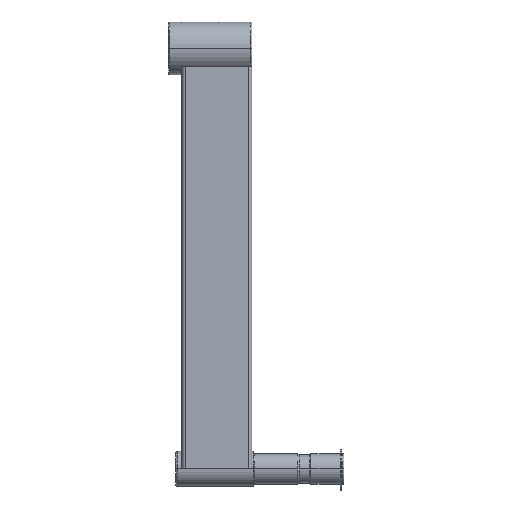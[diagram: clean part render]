
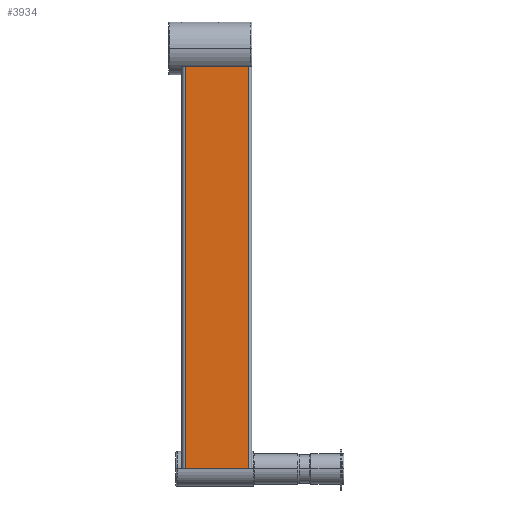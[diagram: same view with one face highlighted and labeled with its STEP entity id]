
A CAD part, left-side view. The second image highlights one B-rep face of the part: STEP entity #3934.
In plain terms, the highlighted planar face has unit normal (-1, 0, 0).
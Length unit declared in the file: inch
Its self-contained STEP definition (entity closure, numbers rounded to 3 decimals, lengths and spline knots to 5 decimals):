
#185 = VECTOR ( 'NONE', #2474, 39.37008 ) ;
#584 = VECTOR ( 'NONE', #3253, 39.37008 ) ;
#673 = ORIENTED_EDGE ( 'NONE', *, *, #1273, .F. ) ;
#834 = DIRECTION ( 'NONE',  ( 0., 1., 0. ) ) ;
#1206 = DIRECTION ( 'NONE',  ( 0., -1., 0. ) ) ;
#1232 = VERTEX_POINT ( 'NONE', #6380 ) ;
#1273 = EDGE_CURVE ( 'NONE', #1584, #2264, #2665, .T. ) ;
#1456 = CARTESIAN_POINT ( 'NONE',  ( 0., -1.9, -5.741 ) ) ;
#1537 = CARTESIAN_POINT ( 'NONE',  ( 0., -0.1, 5.741 ) ) ;
#1584 = VERTEX_POINT ( 'NONE', #2066 ) ;
#1644 = EDGE_CURVE ( 'NONE', #1232, #2264, #1676, .T. ) ;
#1676 = LINE ( 'NONE', #4350, #2908 ) ;
#1809 = CARTESIAN_POINT ( 'NONE',  ( 0., -0.1, 5.741 ) ) ;
#2066 = CARTESIAN_POINT ( 'NONE',  ( 0., -1.9, 5.741 ) ) ;
#2264 = VERTEX_POINT ( 'NONE', #1456 ) ;
#2401 = CARTESIAN_POINT ( 'NONE',  ( 0., -0.1, 5.741 ) ) ;
#2404 = VECTOR ( 'NONE', #1206, 39.37008 ) ;
#2474 = DIRECTION ( 'NONE',  ( 0., 0., -1. ) ) ;
#2665 = LINE ( 'NONE', #3832, #584 ) ;
#2894 = LINE ( 'NONE', #1809, #185 ) ;
#2908 = VECTOR ( 'NONE', #4247, 39.37008 ) ;
#3253 = DIRECTION ( 'NONE',  ( 0., 0., -1. ) ) ;
#3323 = ORIENTED_EDGE ( 'NONE', *, *, #1644, .T. ) ;
#3356 = CARTESIAN_POINT ( 'NONE',  ( 0., -0.1, 5.741 ) ) ;
#3581 = EDGE_LOOP ( 'NONE', ( #3323, #673, #6766, #4239 ) ) ;
#3832 = CARTESIAN_POINT ( 'NONE',  ( 0., -1.9, 5.741 ) ) ;
#3934 = ADVANCED_FACE ( 'NONE', ( #5540 ), #5024, .F. ) ;
#4159 = AXIS2_PLACEMENT_3D ( 'NONE', #2401, #6120, #834 ) ;
#4239 = ORIENTED_EDGE ( 'NONE', *, *, #6153, .T. ) ;
#4247 = DIRECTION ( 'NONE',  ( 0., -1., 0. ) ) ;
#4350 = CARTESIAN_POINT ( 'NONE',  ( 0., -0.1, -5.741 ) ) ;
#4356 = LINE ( 'NONE', #3356, #2404 ) ;
#5024 = PLANE ( 'NONE',  #4159 ) ;
#5405 = EDGE_CURVE ( 'NONE', #6527, #1584, #4356, .T. ) ;
#5540 = FACE_OUTER_BOUND ( 'NONE', #3581, .T. ) ;
#6120 = DIRECTION ( 'NONE',  ( 1., 0., 0. ) ) ;
#6153 = EDGE_CURVE ( 'NONE', #6527, #1232, #2894, .T. ) ;
#6380 = CARTESIAN_POINT ( 'NONE',  ( 0., -0.1, -5.741 ) ) ;
#6527 = VERTEX_POINT ( 'NONE', #1537 ) ;
#6766 = ORIENTED_EDGE ( 'NONE', *, *, #5405, .F. ) ;
